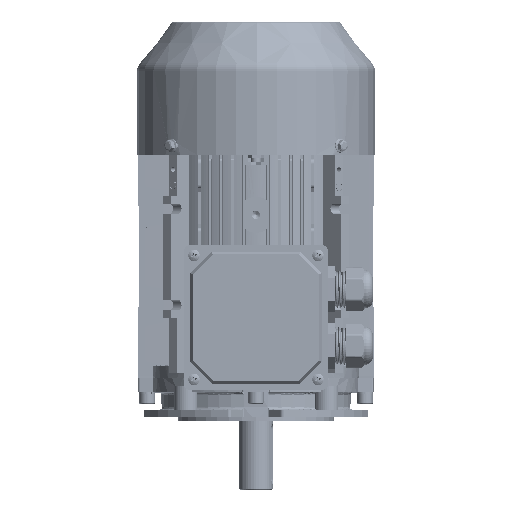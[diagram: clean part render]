
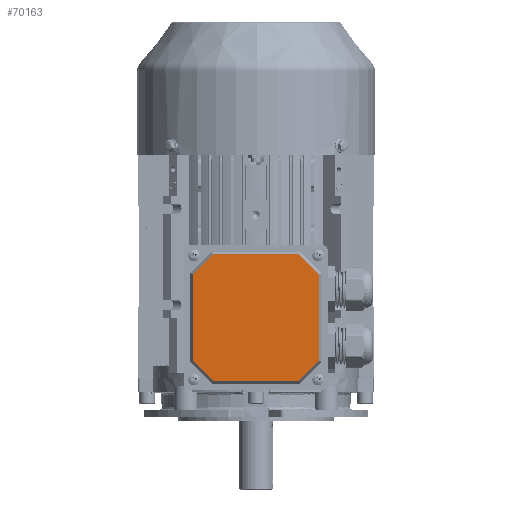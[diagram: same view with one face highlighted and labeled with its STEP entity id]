
A CAD part, top view. The second image highlights one B-rep face of the part: STEP entity #70163.
In plain terms, the highlighted planar face has unit normal (0, 0, 1) as drawn and (0, 0, -1) by its records, which use the part's own axes.
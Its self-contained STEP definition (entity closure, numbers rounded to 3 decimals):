
#3851 = CARTESIAN_POINT ( 'NONE',  ( -52.536, 35.903, -4. ) ) ;
#6704 = ORIENTED_EDGE ( 'NONE', *, *, #60854, .F. ) ;
#7880 = DIRECTION ( 'NONE',  ( 0., 0., 1. ) ) ;
#9957 = VECTOR ( 'NONE', #91140, 1000. ) ;
#11070 = LINE ( 'NONE', #31826, #38931 ) ;
#16692 = VERTEX_POINT ( 'NONE', #38809 ) ;
#17454 = DIRECTION ( 'NONE',  ( -0.707, 0.707, 0. ) ) ;
#19675 = CARTESIAN_POINT ( 'NONE',  ( -52.536, -35.903, -4. ) ) ;
#20276 = CARTESIAN_POINT ( 'NONE',  ( -44.22, -44.22, -4. ) ) ;
#25431 = CARTESIAN_POINT ( 'NONE',  ( 44.22, -44.22, -4. ) ) ;
#25525 = CARTESIAN_POINT ( 'NONE',  ( -52.536, 0., -4. ) ) ;
#28116 = LINE ( 'NONE', #20276, #80978 ) ;
#28204 = EDGE_LOOP ( 'NONE', ( #67926, #83360, #33119, #50399, #76518, #86265, #40886, #6704 ) ) ;
#31826 = CARTESIAN_POINT ( 'NONE',  ( 52.536, 0., -4. ) ) ;
#33119 = ORIENTED_EDGE ( 'NONE', *, *, #104835, .F. ) ;
#33870 = FACE_OUTER_BOUND ( 'NONE', #28204, .T. ) ;
#34880 = LINE ( 'NONE', #25525, #9957 ) ;
#35404 = VERTEX_POINT ( 'NONE', #3851 ) ;
#36866 = VERTEX_POINT ( 'NONE', #77771 ) ;
#38809 = CARTESIAN_POINT ( 'NONE',  ( 52.536, 35.903, -4. ) ) ;
#38931 = VECTOR ( 'NONE', #116212, 1000. ) ;
#39444 = CARTESIAN_POINT ( 'NONE',  ( -44.22, 44.22, -4. ) ) ;
#40886 = ORIENTED_EDGE ( 'NONE', *, *, #52413, .F. ) ;
#45155 = CARTESIAN_POINT ( 'NONE',  ( 0., 0., -4. ) ) ;
#50399 = ORIENTED_EDGE ( 'NONE', *, *, #111034, .F. ) ;
#52350 = EDGE_CURVE ( 'NONE', #36866, #16692, #11070, .T. ) ;
#52413 = EDGE_CURVE ( 'NONE', #59936, #69623, #87911, .T. ) ;
#52609 = AXIS2_PLACEMENT_3D ( 'NONE', #45155, #7880, #73503 ) ;
#54524 = LINE ( 'NONE', #25431, #76578 ) ;
#56388 = CARTESIAN_POINT ( 'NONE',  ( 0., -52.536, -4. ) ) ;
#58110 = EDGE_CURVE ( 'NONE', #86509, #36866, #54524, .T. ) ;
#58289 = DIRECTION ( 'NONE',  ( -0.707, -0.707, 0. ) ) ;
#59911 = VECTOR ( 'NONE', #58289, 1000. ) ;
#59936 = VERTEX_POINT ( 'NONE', #59948 ) ;
#59948 = CARTESIAN_POINT ( 'NONE',  ( 35.903, 52.536, -4. ) ) ;
#60854 = EDGE_CURVE ( 'NONE', #16692, #59936, #79812, .T. ) ;
#64558 = CARTESIAN_POINT ( 'NONE',  ( -35.903, -52.536, -4. ) ) ;
#67926 = ORIENTED_EDGE ( 'NONE', *, *, #52350, .F. ) ;
#69623 = VERTEX_POINT ( 'NONE', #72092 ) ;
#70163 = ADVANCED_FACE ( 'NONE', ( #33870 ), #120100, .F. ) ;
#72092 = CARTESIAN_POINT ( 'NONE',  ( -35.903, 52.536, -4. ) ) ;
#73503 = DIRECTION ( 'NONE',  ( 1., 0., 0. ) ) ;
#76518 = ORIENTED_EDGE ( 'NONE', *, *, #86341, .F. ) ;
#76578 = VECTOR ( 'NONE', #81630, 1000. ) ;
#77235 = EDGE_CURVE ( 'NONE', #69623, #35404, #112705, .T. ) ;
#77771 = CARTESIAN_POINT ( 'NONE',  ( 52.536, -35.903, -4. ) ) ;
#79805 = CARTESIAN_POINT ( 'NONE',  ( 0., 52.536, -4. ) ) ;
#79812 = LINE ( 'NONE', #110871, #104744 ) ;
#80828 = VECTOR ( 'NONE', #112491, 1000. ) ;
#80978 = VECTOR ( 'NONE', #85912, 1000. ) ;
#81630 = DIRECTION ( 'NONE',  ( 0.707, 0.707, 0. ) ) ;
#83360 = ORIENTED_EDGE ( 'NONE', *, *, #58110, .F. ) ;
#85912 = DIRECTION ( 'NONE',  ( 0.707, -0.707, 0. ) ) ;
#86265 = ORIENTED_EDGE ( 'NONE', *, *, #77235, .F. ) ;
#86341 = EDGE_CURVE ( 'NONE', #35404, #92127, #34880, .T. ) ;
#86509 = VERTEX_POINT ( 'NONE', #121295 ) ;
#87911 = LINE ( 'NONE', #79805, #109864 ) ;
#89245 = DIRECTION ( 'NONE',  ( -1., 0., 0. ) ) ;
#91140 = DIRECTION ( 'NONE',  ( 0., -1., 0. ) ) ;
#92127 = VERTEX_POINT ( 'NONE', #19675 ) ;
#104744 = VECTOR ( 'NONE', #17454, 1000. ) ;
#104835 = EDGE_CURVE ( 'NONE', #110786, #86509, #105720, .T. ) ;
#105720 = LINE ( 'NONE', #56388, #80828 ) ;
#109864 = VECTOR ( 'NONE', #89245, 1000. ) ;
#110786 = VERTEX_POINT ( 'NONE', #64558 ) ;
#110871 = CARTESIAN_POINT ( 'NONE',  ( 44.22, 44.22, -4. ) ) ;
#111034 = EDGE_CURVE ( 'NONE', #92127, #110786, #28116, .T. ) ;
#112491 = DIRECTION ( 'NONE',  ( 1., 0., 0. ) ) ;
#112705 = LINE ( 'NONE', #39444, #59911 ) ;
#116212 = DIRECTION ( 'NONE',  ( 0., 1., 0. ) ) ;
#120100 = PLANE ( 'NONE',  #52609 ) ;
#121295 = CARTESIAN_POINT ( 'NONE',  ( 35.903, -52.536, -4. ) ) ;
